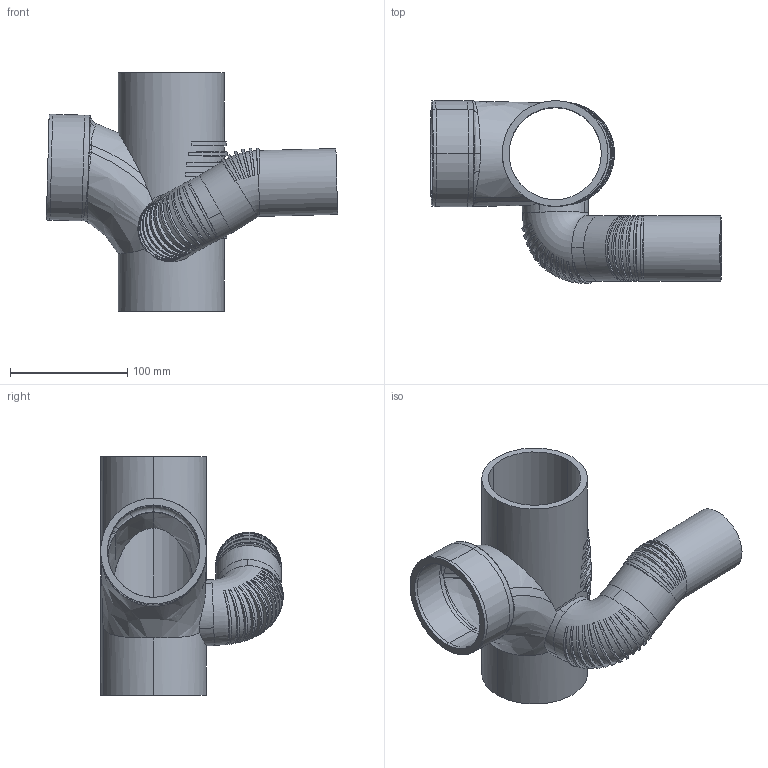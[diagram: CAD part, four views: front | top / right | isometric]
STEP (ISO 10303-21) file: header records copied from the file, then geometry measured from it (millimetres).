
FILE_DESCRIPTION(/* description */ (''),/* implementation_level */ '2;1');
FILE_NAME(/* name */ '308874.stp',/* time_stamp */ '2024-10-28T09:50:49+01:00',/* author */ ('JANAN'),/* organization */ (''),/* preprocessor_version */ 'ST-DEVELOPER v19.2',/* originating_system */ 'Autodesk Inventor 2023',/* authorisation */ '');
FILE_SCHEMA (('AUTOMOTIVE_DESIGN { 1 0 10303 214 3 1 1 }'));
Length unit declared in the file: millimetre
Products named in the file (1): tmp1D03.tmp
Bounding box: 248.88 x 155.93 x 204 mm (x, y, z)
Volume: 500538.1 mm3; surface area: 207023.2 mm2
Topology: 1 solids, 1 shells, 229 faces, 616 edges, 400 vertices
Faces by surface type: bspline 92, cylinder 61, cone 56, plane 11, torus 9
Full cylindrical faces by diameter (mm): 49.55 x2, 56.25 x2
Entity records: 18940 total; most frequent: CARTESIAN_POINT 13710, ORIENTED_EDGE 1228, DIRECTION 735, EDGE_CURVE 614, VERTEX_POINT 400, B_SPLINE_CURVE_WITH_KNOTS 341, AXIS2_PLACEMENT_3D 324, EDGE_LOOP 248
